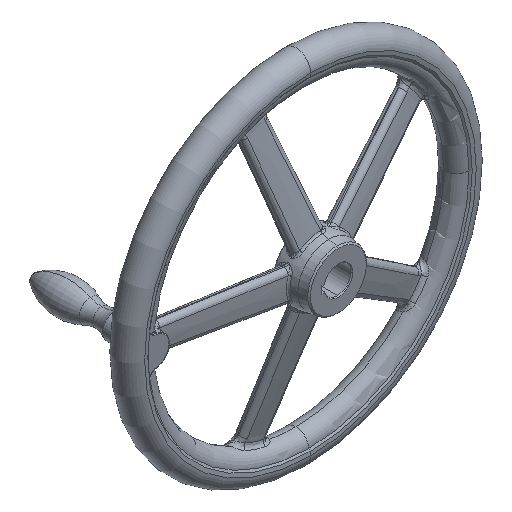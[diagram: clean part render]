
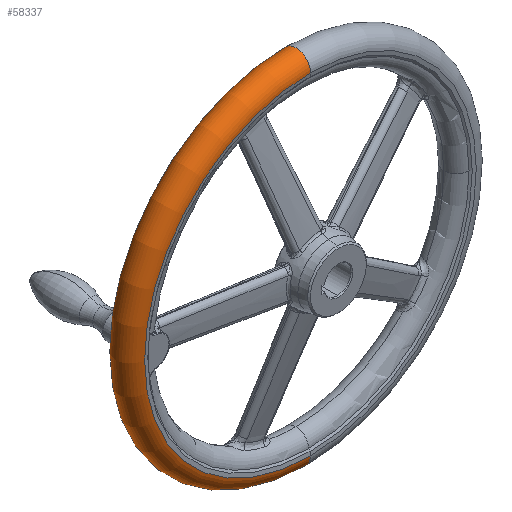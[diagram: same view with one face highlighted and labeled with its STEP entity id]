
A CAD part, isometric view. The second image highlights one B-rep face of the part: STEP entity #58337.
In plain terms, the highlighted toroidal (fillet/blend) face has major radius 184 mm and minor radius 16 mm.
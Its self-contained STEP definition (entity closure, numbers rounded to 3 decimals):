
#597 = EDGE_CURVE ( 'NONE', #53143, #31618, #27047, .T. ) ;
#689 = EDGE_CURVE ( 'NONE', #31537, #31618, #27062, .T. ) ;
#9519 = DIRECTION ( 'NONE',  ( 0., -1., 0. ) ) ;
#9521 = AXIS2_PLACEMENT_3D ( 'NONE', #9619, #9519, #9612 ) ;
#9531 = TOROIDAL_SURFACE ( 'NONE', #9521, 184., 16. ) ;
#9536 = FACE_OUTER_BOUND ( 'NONE', #58321, .T. ) ;
#9612 = DIRECTION ( 'NONE',  ( 0., 0., -1. ) ) ;
#9619 = CARTESIAN_POINT ( 'NONE',  ( 0., 47., 0. ) ) ;
#27023 = CARTESIAN_POINT ( 'NONE',  ( 0., 31., 0. ) ) ;
#27025 = DIRECTION ( 'NONE',  ( 0., 0., 1. ) ) ;
#27026 = DIRECTION ( 'NONE',  ( -1., 0., 0. ) ) ;
#27027 = AXIS2_PLACEMENT_3D ( 'NONE', #27043, #27026, #27025 ) ;
#27033 = AXIS2_PLACEMENT_3D ( 'NONE', #27023, #27056, #27054 ) ;
#27043 = CARTESIAN_POINT ( 'NONE',  ( 0., 47., -184. ) ) ;
#27047 = CIRCLE ( 'NONE', #27027, 16. ) ;
#27054 = DIRECTION ( 'NONE',  ( 0., 0., -1. ) ) ;
#27056 = DIRECTION ( 'NONE',  ( 0., -1., 0. ) ) ;
#27062 = CIRCLE ( 'NONE', #27033, 184. ) ;
#31537 = VERTEX_POINT ( 'NONE', #45014 ) ;
#31618 = VERTEX_POINT ( 'NONE', #45144 ) ;
#31755 = EDGE_CURVE ( 'NONE', #53237, #31537, #47134, .T. ) ;
#35589 = DIRECTION ( 'NONE',  ( 0., 0., -1. ) ) ;
#35591 = DIRECTION ( 'NONE',  ( 0., -1., 0. ) ) ;
#35592 = AXIS2_PLACEMENT_3D ( 'NONE', #35610, #35591, #35589 ) ;
#35601 = CIRCLE ( 'NONE', #35592, 184. ) ;
#35605 = CARTESIAN_POINT ( 'NONE',  ( 0., 63., -184. ) ) ;
#35610 = CARTESIAN_POINT ( 'NONE',  ( 0., 63., 0. ) ) ;
#36645 = CARTESIAN_POINT ( 'NONE',  ( 0., 63., 184. ) ) ;
#45014 = CARTESIAN_POINT ( 'NONE',  ( 0., 31., 184. ) ) ;
#45144 = CARTESIAN_POINT ( 'NONE',  ( 0., 31., -184. ) ) ;
#47108 = DIRECTION ( 'NONE',  ( 0., 0., -1. ) ) ;
#47110 = DIRECTION ( 'NONE',  ( 1., 0., 0. ) ) ;
#47111 = CARTESIAN_POINT ( 'NONE',  ( 0., 47., 184. ) ) ;
#47114 = AXIS2_PLACEMENT_3D ( 'NONE', #47111, #47110, #47108 ) ;
#47134 = CIRCLE ( 'NONE', #47114, 16. ) ;
#53143 = VERTEX_POINT ( 'NONE', #35605 ) ;
#53146 = EDGE_CURVE ( 'NONE', #53237, #53143, #35601, .T. ) ;
#53237 = VERTEX_POINT ( 'NONE', #36645 ) ;
#58301 = ORIENTED_EDGE ( 'NONE', *, *, #31755, .F. ) ;
#58321 = EDGE_LOOP ( 'NONE', ( #58301, #58392, #58345, #58391 ) ) ;
#58337 = ADVANCED_FACE ( 'NONE', ( #9536 ), #9531, .T. ) ;
#58345 = ORIENTED_EDGE ( 'NONE', *, *, #597, .T. ) ;
#58391 = ORIENTED_EDGE ( 'NONE', *, *, #689, .F. ) ;
#58392 = ORIENTED_EDGE ( 'NONE', *, *, #53146, .T. ) ;
